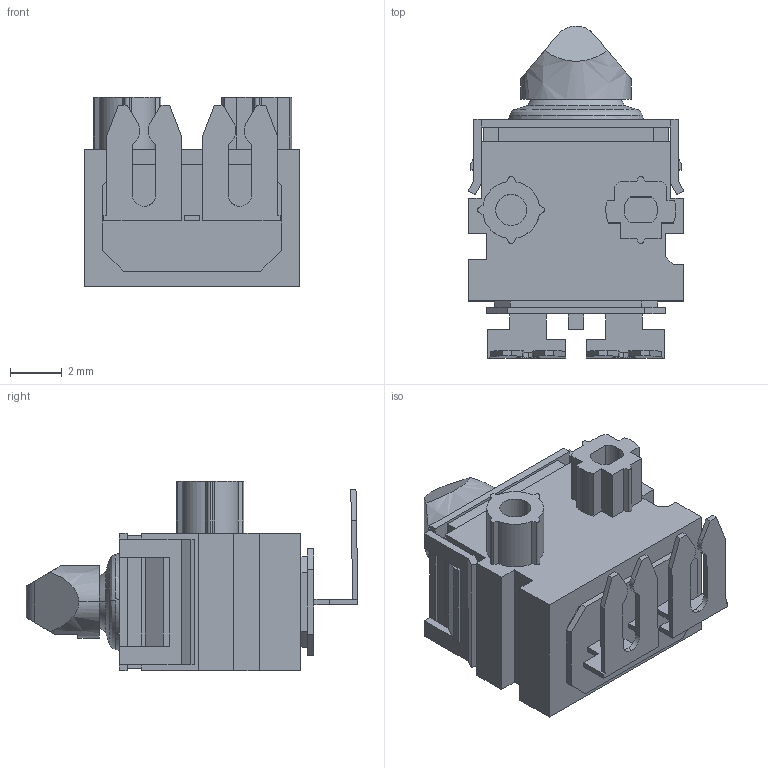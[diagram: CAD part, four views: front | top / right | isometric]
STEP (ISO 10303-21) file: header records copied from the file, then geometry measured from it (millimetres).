
FILE_DESCRIPTION (( 'STEP AP214' ), '1' );
FILE_NAME ('D2EW_B02L.step', '2023-02-17T07:53:44', ( 'OSMC1.0 ' ), ( ' ' ), 'SwSTEP 2.0', 'SolidWorks 2002025', '' );
FILE_SCHEMA (( 'AUTOMOTIVE_DESIGN' ));
Length unit declared in the file: millimetre
Products named in the file (3): D2EW_B02L; D2EW_B02L_BUTTON; D2EW_B02L_BASE
Assembly tree (2 placements, depth 2):
  D2EW_B02L
    D2EW_B02L_BASE
    D2EW_B02L_BUTTON
Bounding box: 8.3 x 12.8 x 7.3 mm (x, y, z)
Volume: 314.9 mm3; surface area: 552.3 mm2
Topology: 2 solids, 2 shells, 219 faces, 610 edges, 400 vertices
Faces by surface type: plane 177, cylinder 30, bspline 12
Entity records: 10816 total; most frequent: CARTESIAN_POINT 4036, ORIENTED_EDGE 1220, DIRECTION 1024, EDGE_CURVE 610, LINE 512, VECTOR 512, VERTEX_POINT 400, AXIS2_PLACEMENT_3D 256
